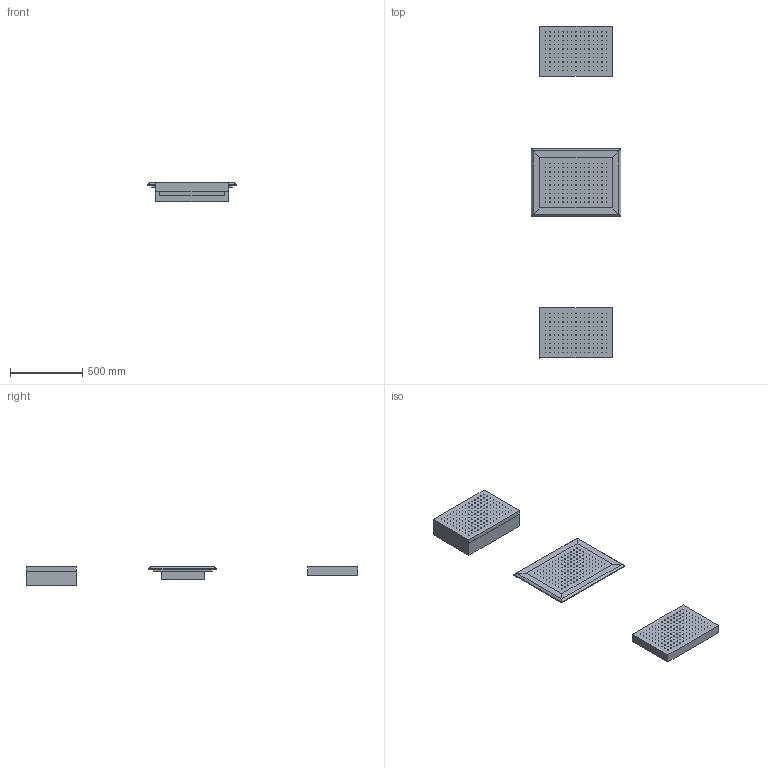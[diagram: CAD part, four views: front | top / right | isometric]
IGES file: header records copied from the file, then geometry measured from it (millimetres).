
Global section: file name: D:\Desktop\GIOVANNI\SCHEDE PRODOTTO\SOFFIONI\SQUARE SOWER\3D\MOMA DESIGN_ACCESSORI_SQUARE SHOWER.igs; native system: Rhinoceros ( Jan 17 2018 ); preprocessor: Trout Lake IGES 012 Jan 17 2018; date: 230523.150933; units: millimetre
Bounding box: 620 x 2305.04 x 135.3 mm (x, y, z)
Surface area: 2620038 mm2 (no closed solid volume)
Topology: 0 solids, 0 shells, 3232 faces, 19950 edges, 18600 vertices
Faces by surface type: bspline 3232
